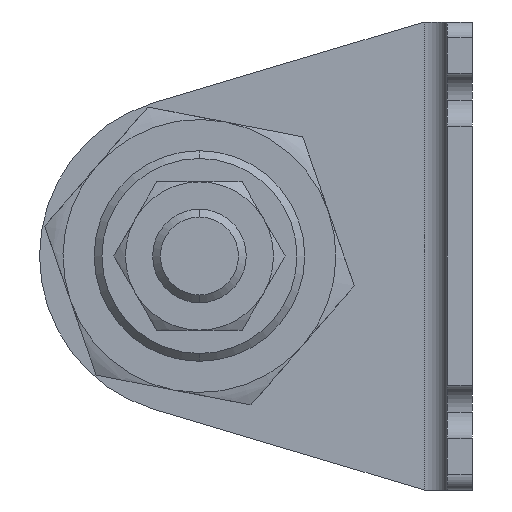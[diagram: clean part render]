
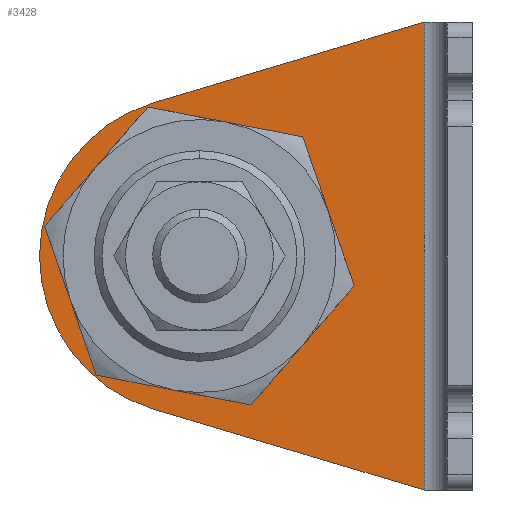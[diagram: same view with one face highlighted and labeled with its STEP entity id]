
A CAD part, left-side view. The second image highlights one B-rep face of the part: STEP entity #3428.
In plain terms, the highlighted planar face has unit normal (-1, 0, 0) as drawn and (1, 0, 0) by its records, which use the part's own axes.
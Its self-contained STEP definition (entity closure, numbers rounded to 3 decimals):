
#128 = DIRECTION ( 'NONE',  ( 1., 0., 0. ) ) ;
#133 = VECTOR ( 'NONE', #3473, 1000. ) ;
#194 = DIRECTION ( 'NONE',  ( 1., 0., 0. ) ) ;
#203 = CARTESIAN_POINT ( 'NONE',  ( 3.2, 35., -30. ) ) ;
#221 = DIRECTION ( 'NONE',  ( 0., 1., 0. ) ) ;
#310 = VECTOR ( 'NONE', #2265, 1000. ) ;
#437 = LINE ( 'NONE', #657, #133 ) ;
#478 = EDGE_CURVE ( 'NONE', #2348, #3835, #4171, .T. ) ;
#657 = CARTESIAN_POINT ( 'NONE',  ( 3.2, 6.2, -60. ) ) ;
#832 = ORIENTED_EDGE ( 'NONE', *, *, #3252, .F. ) ;
#905 = AXIS2_PLACEMENT_3D ( 'NONE', #2428, #194, #1447 ) ;
#972 = VERTEX_POINT ( 'NONE', #4204 ) ;
#976 = DIRECTION ( 'NONE',  ( 0., 0.958, -0.286 ) ) ;
#1034 = AXIS2_PLACEMENT_3D ( 'NONE', #4265, #2300, #221 ) ;
#1039 = VECTOR ( 'NONE', #976, 1000. ) ;
#1042 = VERTEX_POINT ( 'NONE', #3198 ) ;
#1055 = CARTESIAN_POINT ( 'NONE',  ( 3.2, 21.5, -30. ) ) ;
#1285 = LINE ( 'NONE', #3590, #310 ) ;
#1413 = CARTESIAN_POINT ( 'NONE',  ( 3.2, 19.903, -4.094 ) ) ;
#1447 = DIRECTION ( 'NONE',  ( 0., 1., 0. ) ) ;
#1595 = CIRCLE ( 'NONE', #2512, 20.5 ) ;
#1606 = DIRECTION ( 'NONE',  ( 1., 0., 0. ) ) ;
#1694 = LINE ( 'NONE', #1413, #1039 ) ;
#1695 = VERTEX_POINT ( 'NONE', #2456 ) ;
#1756 = ORIENTED_EDGE ( 'NONE', *, *, #4415, .T. ) ;
#2002 = VERTEX_POINT ( 'NONE', #2999 ) ;
#2085 = CARTESIAN_POINT ( 'NONE',  ( 3.2, 35., -30. ) ) ;
#2143 = DIRECTION ( 'NONE',  ( 0., 1., 0. ) ) ;
#2221 = EDGE_CURVE ( 'NONE', #4130, #2002, #1285, .T. ) ;
#2246 = ORIENTED_EDGE ( 'NONE', *, *, #2221, .T. ) ;
#2265 = DIRECTION ( 'NONE',  ( 0., 0.958, 0.286 ) ) ;
#2300 = DIRECTION ( 'NONE',  ( 1., 0., 0. ) ) ;
#2348 = VERTEX_POINT ( 'NONE', #4357 ) ;
#2428 = CARTESIAN_POINT ( 'NONE',  ( 3.2, 35., -30. ) ) ;
#2456 = CARTESIAN_POINT ( 'NONE',  ( 3.2, 40.868, -10.358 ) ) ;
#2510 = FACE_OUTER_BOUND ( 'NONE', #4346, .T. ) ;
#2512 = AXIS2_PLACEMENT_3D ( 'NONE', #203, #128, #3872 ) ;
#2569 = AXIS2_PLACEMENT_3D ( 'NONE', #2085, #1606, #2938 ) ;
#2613 = EDGE_CURVE ( 'NONE', #1042, #1695, #3933, .T. ) ;
#2938 = DIRECTION ( 'NONE',  ( 0., 1., 0. ) ) ;
#2999 = CARTESIAN_POINT ( 'NONE',  ( 3.2, 40.868, -49.642 ) ) ;
#3005 = FACE_BOUND ( 'NONE', #3729, .T. ) ;
#3007 = PLANE ( 'NONE',  #3903 ) ;
#3043 = EDGE_CURVE ( 'NONE', #972, #4130, #437, .T. ) ;
#3150 = DIRECTION ( 'NONE',  ( 1., 0., 0. ) ) ;
#3198 = CARTESIAN_POINT ( 'NONE',  ( 3.2, 55.5, -30. ) ) ;
#3241 = CARTESIAN_POINT ( 'NONE',  ( 3.2, 6.2, -60. ) ) ;
#3252 = EDGE_CURVE ( 'NONE', #972, #1695, #1694, .T. ) ;
#3346 = ORIENTED_EDGE ( 'NONE', *, *, #3605, .F. ) ;
#3406 = ORIENTED_EDGE ( 'NONE', *, *, #2613, .T. ) ;
#3428 = ADVANCED_FACE ( 'NONE', ( #3005, #2510 ), #3007, .T. ) ;
#3473 = DIRECTION ( 'NONE',  ( 0., 0., -1. ) ) ;
#3480 = CIRCLE ( 'NONE', #1034, 13.5 ) ;
#3590 = CARTESIAN_POINT ( 'NONE',  ( 3.2, 3.446, -60.823 ) ) ;
#3605 = EDGE_CURVE ( 'NONE', #3835, #2348, #3480, .T. ) ;
#3729 = EDGE_LOOP ( 'NONE', ( #4202, #3346 ) ) ;
#3835 = VERTEX_POINT ( 'NONE', #1055 ) ;
#3872 = DIRECTION ( 'NONE',  ( 0., 1., 0. ) ) ;
#3903 = AXIS2_PLACEMENT_3D ( 'NONE', #4243, #3150, #2143 ) ;
#3933 = CIRCLE ( 'NONE', #905, 20.5 ) ;
#4130 = VERTEX_POINT ( 'NONE', #3241 ) ;
#4171 = CIRCLE ( 'NONE', #2569, 13.5 ) ;
#4202 = ORIENTED_EDGE ( 'NONE', *, *, #478, .F. ) ;
#4204 = CARTESIAN_POINT ( 'NONE',  ( 3.2, 6.2, 0. ) ) ;
#4243 = CARTESIAN_POINT ( 'NONE',  ( 3.2, 3.2, -60. ) ) ;
#4265 = CARTESIAN_POINT ( 'NONE',  ( 3.2, 35., -30. ) ) ;
#4346 = EDGE_LOOP ( 'NONE', ( #2246, #1756, #3406, #832, #4487 ) ) ;
#4357 = CARTESIAN_POINT ( 'NONE',  ( 3.2, 48.5, -30. ) ) ;
#4415 = EDGE_CURVE ( 'NONE', #2002, #1042, #1595, .T. ) ;
#4487 = ORIENTED_EDGE ( 'NONE', *, *, #3043, .T. ) ;
